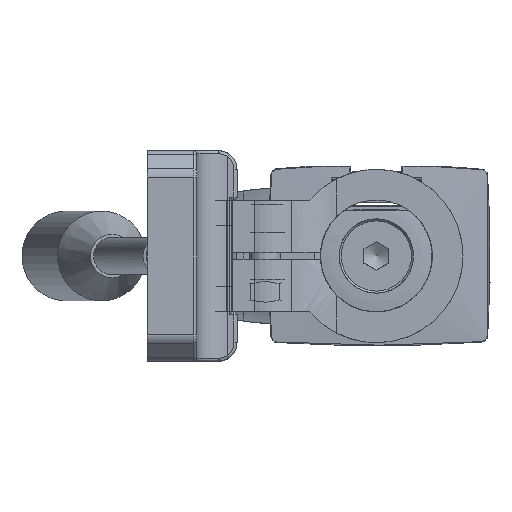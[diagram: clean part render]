
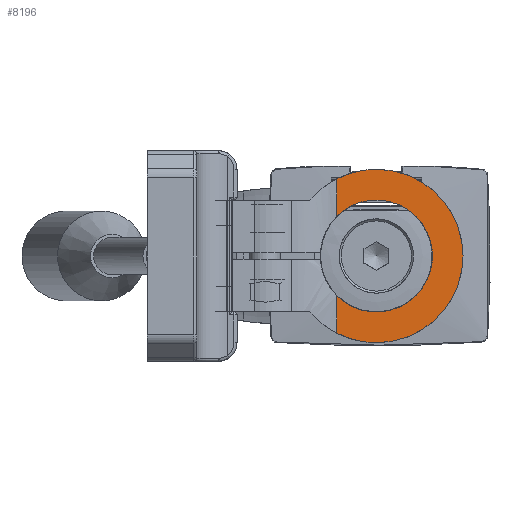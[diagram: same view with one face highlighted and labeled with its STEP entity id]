
A CAD part, left-side view. The second image highlights one B-rep face of the part: STEP entity #8196.
In plain terms, the highlighted planar face has unit normal (-1, 0, 0) as drawn and (0, 0, 1) by its records, which use the part's own axes.
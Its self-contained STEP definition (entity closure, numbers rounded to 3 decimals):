
#7436=CARTESIAN_POINT('',(-6.381,-12.461,6.));
#7437=VERTEX_POINT('',#7436);
#7454=CARTESIAN_POINT('',(-6.381,-6.418,6.));
#7455=VERTEX_POINT('',#7454);
#7456=CARTESIAN_POINT('',(-6.381,-6.418,6.));
#7457=DIRECTION('',(0.0,-1.0,0.0));
#7458=VECTOR('',#7457,6.044);
#7459=LINE('',#7456,#7458);
#7460=EDGE_CURVE('',#7455,#7437,#7459,.T.);
#8005=CARTESIAN_POINT('',(-6.381,6.418,6.));
#8006=VERTEX_POINT('',#8005);
#8020=CARTESIAN_POINT('',(-6.381,12.461,6.));
#8021=VERTEX_POINT('',#8020);
#8022=CARTESIAN_POINT('',(-6.381,6.418,6.));
#8023=DIRECTION('',(0.0,1.0,0.0));
#8024=VECTOR('',#8023,6.044);
#8025=LINE('',#8022,#8024);
#8026=EDGE_CURVE('',#8006,#8021,#8025,.T.);
#8072=CARTESIAN_POINT('',(0.0,0.0,6.));
#8073=DIRECTION('',(0.0,0.0,-1.0));
#8074=DIRECTION('',(-1.0,0.0,0.0));
#8075=AXIS2_PLACEMENT_3D('',#8072,#8073,#8074);
#8076=CIRCLE('',#8075,9.05);
#8077=EDGE_CURVE('',#8006,#7455,#8076,.T.);
#8179=CARTESIAN_POINT('',(0.,4.91,6.));
#8180=DIRECTION('',(0.0,0.0,1.0));
#8181=DIRECTION('',(1.0,0.0,0.0));
#8182=AXIS2_PLACEMENT_3D('',#8179,#8180,#8181);
#8183=PLANE('',#8182);
#8184=ORIENTED_EDGE('',*,*,#8077,.T.);
#8185=ORIENTED_EDGE('',*,*,#7460,.T.);
#8186=CARTESIAN_POINT('',(0.0,0.0,6.));
#8187=DIRECTION('',(0.0,0.0,-1.0));
#8188=DIRECTION('',(1.0,0.0,0.0));
#8189=AXIS2_PLACEMENT_3D('',#8186,#8187,#8188);
#8190=CIRCLE('',#8189,14.);
#8191=EDGE_CURVE('',#8021,#7437,#8190,.T.);
#8192=ORIENTED_EDGE('',*,*,#8191,.F.);
#8193=ORIENTED_EDGE('',*,*,#8026,.F.);
#8194=EDGE_LOOP('',(#8184,#8185,#8192,#8193));
#8195=FACE_OUTER_BOUND('',#8194,.T.);
#8196=ADVANCED_FACE('',(#8195),#8183,.T.);
